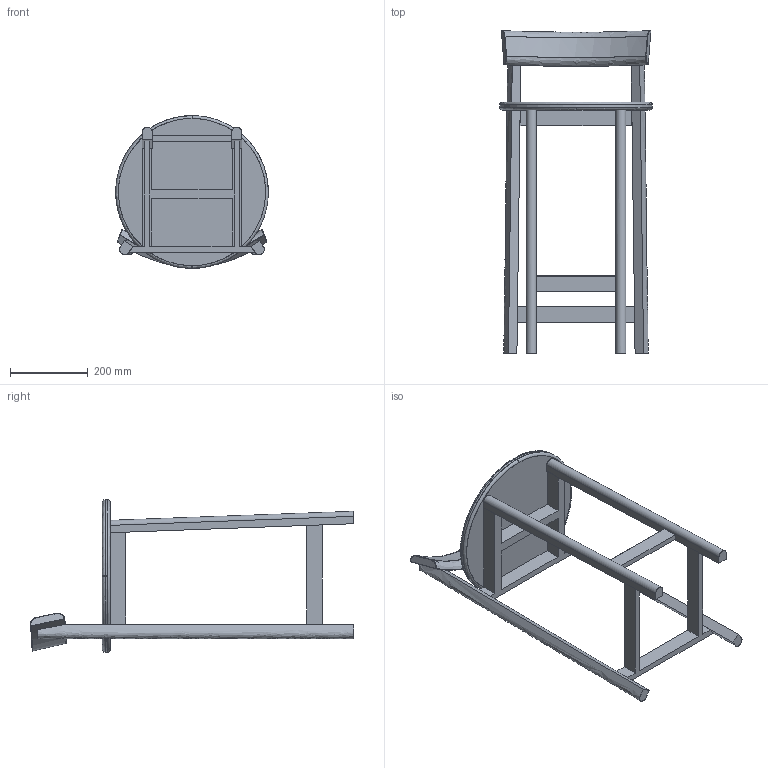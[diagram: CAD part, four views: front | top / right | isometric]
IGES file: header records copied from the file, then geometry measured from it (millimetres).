
Start section: SolidWorks IGES file using analytic representation for surfaces
Global section: file name: C:\Users\Utilizador\Downloads\798P Petit Breakfast Stool_3D IGS.IGS; native system: SolidWorks 2016; preprocessor: SolidWorks 2016; author: Utilizador; date: 220223.143450; units: millimetre
Bounding box: 393.82 x 832.72 x 393.82 mm (x, y, z)
Surface area: 830427 mm2 (no closed solid volume)
Topology: 0 solids, 0 shells, 87 faces, 1223 edges, 1223 vertices
Faces by surface type: bspline 72, revolution 15
